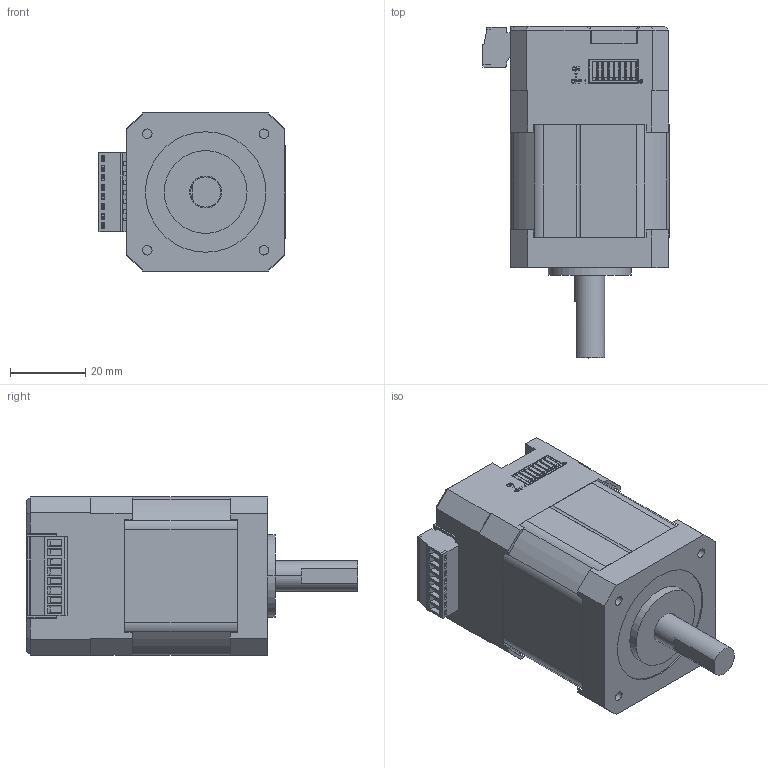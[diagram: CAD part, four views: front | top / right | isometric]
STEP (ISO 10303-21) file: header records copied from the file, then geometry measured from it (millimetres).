
FILE_DESCRIPTION((''),'2;1');
FILE_NAME('IT42AM06-D0824-24V-M','2024-08-09T18:02:48',('ruiwe'),(''),'CREO PARAMETRIC BY PTC INC, 2021063','CREO PARAMETRIC BY PTC INC, 2021063','');
FILE_SCHEMA(('CONFIG_CONTROL_DESIGN','SHAPE_APPEARANCE_LAYERS_GROUPS'));
Products named in the file (1): IT42AM06-D0824-24V-M
Bounding box: 49.45 x 88.2 x 42.2 mm (x, y, z)
Volume: 71289.6 mm3; surface area: 41764.6 mm2
Topology: 3 solids, 156 shells, 1928 faces, 6699 edges, 4953 vertices
Faces by surface type: plane 1360, cylinder 411, torus 56, bspline 38, cone 34, sphere 29
Entity records: 94030 total; most frequent: CARTESIAN_POINT 19576, ORIENTED_EDGE 11496, DIRECTION 10636, EDGE_CURVE 6699, VERTEX_POINT 4953, VECTOR 4942, LINE 4942, PRESENTATION_STYLE_ASSIGNMENT 3618
